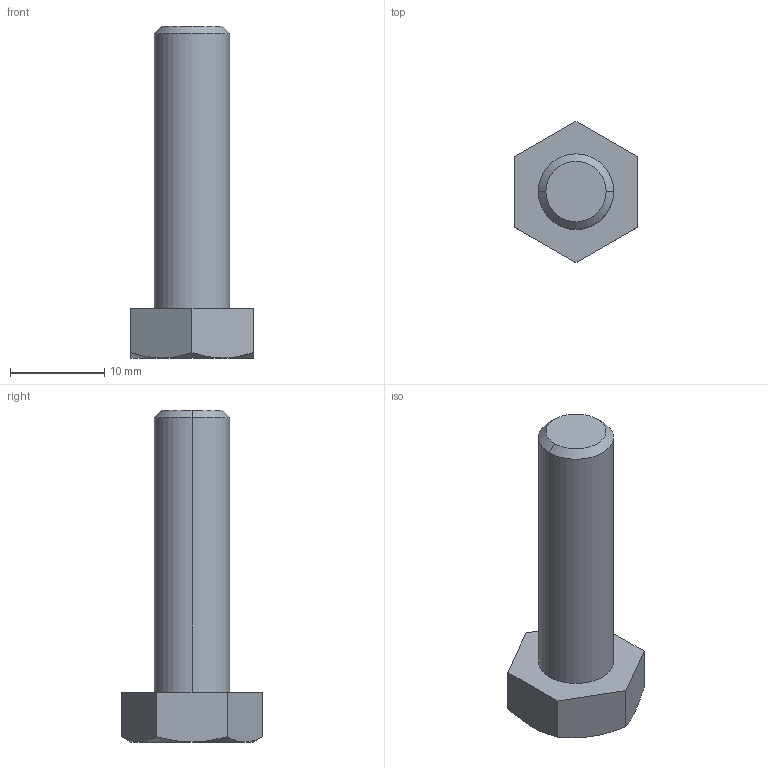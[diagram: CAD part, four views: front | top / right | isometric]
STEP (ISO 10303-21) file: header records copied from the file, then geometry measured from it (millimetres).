
FILE_DESCRIPTION (( 'STEP AP214' ), '1' );
FILE_NAME ('VisH82.STEP', '2008-05-19T17:37:01', ( ' ' ), ( ' ' ), 'SwSTEP 2.0', 'SolidWorks 2005143', '' );
FILE_SCHEMA (( 'AUTOMOTIVE_DESIGN' ));
Length unit declared in the file: millimetre
Products named in the file (1): VisH82
Bounding box: 13 x 15.01 x 35.3 mm (x, y, z)
Volume: 2273.8 mm3; surface area: 1265.9 mm2
Topology: 1 solids, 1 shells, 19 faces, 40 edges, 24 vertices
Faces by surface type: plane 9, cone 8, cylinder 2
Entity records: 569 total; most frequent: CARTESIAN_POINT 152, DIRECTION 80, ORIENTED_EDGE 80, EDGE_CURVE 40, AXIS2_PLACEMENT_3D 32, VERTEX_POINT 24, EDGE_LOOP 20, FACE_OUTER_BOUND 19
